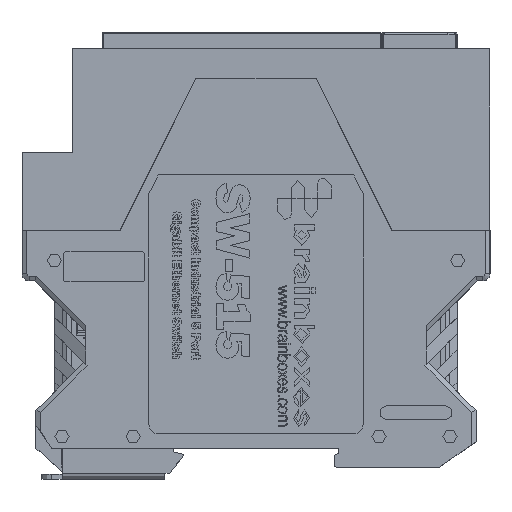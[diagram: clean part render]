
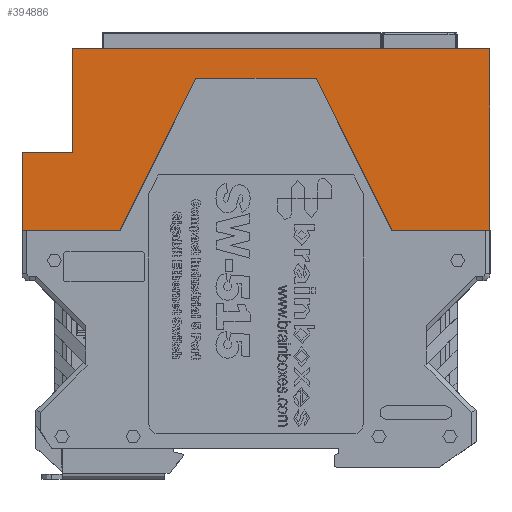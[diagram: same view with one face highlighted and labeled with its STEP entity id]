
A CAD part, top view. The second image highlights one B-rep face of the part: STEP entity #394886.
In plain terms, the highlighted planar face has unit normal (0, 0, 1).
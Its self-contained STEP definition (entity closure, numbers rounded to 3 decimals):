
#390631 = VERTEX_POINT('',#390632);
#390632 = CARTESIAN_POINT('',(45.7,2.4,
    18.7));
#390638 = EDGE_CURVE('',#390639,#390631,#390641,.T.);
#390639 = VERTEX_POINT('',#390640);
#390640 = CARTESIAN_POINT('',(25.,2.4,
    18.7));
#390641 = LINE('',#390642,#390643);
#390642 = CARTESIAN_POINT('',(-3.8,2.4,18.7));
#390643 = VECTOR('',#390644,1.);
#390644 = DIRECTION('',(1.,0.,0.));
#391151 = VERTEX_POINT('',#391152);
#391152 = CARTESIAN_POINT('',(-32.6,2.4,
    18.7));
#391158 = EDGE_CURVE('',#391159,#391151,#391161,.T.);
#391159 = VERTEX_POINT('',#391160);
#391160 = CARTESIAN_POINT('',(-53.3,2.4,
    18.7));
#391161 = LINE('',#391162,#391163);
#391162 = CARTESIAN_POINT('',(-3.8,2.4,18.7));
#391163 = VECTOR('',#391164,1.);
#391164 = DIRECTION('',(1.,0.,0.));
#391452 = VERTEX_POINT('',#391453);
#391453 = CARTESIAN_POINT('',(-53.3,19.,
    18.7));
#391461 = EDGE_CURVE('',#391452,#391462,#391464,.T.);
#391462 = VERTEX_POINT('',#391463);
#391463 = CARTESIAN_POINT('',(-42.6,19.,
    18.7));
#391464 = LINE('',#391465,#391466);
#391465 = CARTESIAN_POINT('',(-3.8,19.,18.7));
#391466 = VECTOR('',#391467,1.);
#391467 = DIRECTION('',(1.,0.,0.));
#391731 = EDGE_CURVE('',#391732,#391462,#391734,.T.);
#391732 = VERTEX_POINT('',#391733);
#391733 = CARTESIAN_POINT('',(-42.6,40.9,
    18.7));
#391734 = LINE('',#391735,#391736);
#391735 = CARTESIAN_POINT('',(-42.6,-74.1,
    18.7));
#391736 = VECTOR('',#391737,1.);
#391737 = DIRECTION('',(0.,-1.,0.));
#393228 = VERTEX_POINT('',#393229);
#393229 = CARTESIAN_POINT('',(45.7,40.9,
    18.7));
#393235 = EDGE_CURVE('',#390631,#393228,#393236,.T.);
#393236 = LINE('',#393237,#393238);
#393237 = CARTESIAN_POINT('',(45.7,-74.1,
    18.7));
#393238 = VECTOR('',#393239,1.);
#393239 = DIRECTION('',(0.,1.,0.));
#393393 = VERTEX_POINT('',#393394);
#393394 = CARTESIAN_POINT('',(-16.553,34.6,
    18.7));
#393411 = VERTEX_POINT('',#393412);
#393412 = CARTESIAN_POINT('',(8.953,34.6,
    18.7));
#393418 = EDGE_CURVE('',#393411,#393393,#393419,.T.);
#393419 = LINE('',#393420,#393421);
#393420 = CARTESIAN_POINT('',(-3.8,34.6,18.7));
#393421 = VECTOR('',#393422,1.);
#393422 = DIRECTION('',(-1.,0.,0.));
#393704 = EDGE_CURVE('',#391452,#391159,#393705,.T.);
#393705 = LINE('',#393706,#393707);
#393706 = CARTESIAN_POINT('',(-53.3,-74.1,
    18.7));
#393707 = VECTOR('',#393708,1.);
#393708 = DIRECTION('',(0.,-1.,0.));
#394117 = EDGE_CURVE('',#390639,#393411,#394118,.T.);
#394118 = LINE('',#394119,#394120);
#394119 = CARTESIAN_POINT('',(63.125,-74.1,
    18.7));
#394120 = VECTOR('',#394121,1.);
#394121 = DIRECTION('',(-0.446,0.895,
    0.));
#394146 = EDGE_CURVE('',#391732,#393228,#394147,.T.);
#394147 = LINE('',#394148,#394149);
#394148 = CARTESIAN_POINT('',(-3.8,40.9,18.7));
#394149 = VECTOR('',#394150,1.);
#394150 = DIRECTION('',(1.,0.,0.));
#394217 = EDGE_CURVE('',#391151,#393393,#394218,.T.);
#394218 = LINE('',#394219,#394220);
#394219 = CARTESIAN_POINT('',(-70.725,-74.1,
    18.7));
#394220 = VECTOR('',#394221,1.);
#394221 = DIRECTION('',(0.446,0.895,
    0.));
#394886 = ADVANCED_FACE('',(#394887),#394899,.T.);
#394887 = FACE_BOUND('',#394888,.T.);
#394888 = EDGE_LOOP('',(#394889,#394890,#394891,#394892,#394893,#394894,
    #394895,#394896,#394897,#394898));
#394889 = ORIENTED_EDGE('',*,*,#393235,.T.);
#394890 = ORIENTED_EDGE('',*,*,#394146,.F.);
#394891 = ORIENTED_EDGE('',*,*,#391731,.T.);
#394892 = ORIENTED_EDGE('',*,*,#391461,.F.);
#394893 = ORIENTED_EDGE('',*,*,#393704,.T.);
#394894 = ORIENTED_EDGE('',*,*,#391158,.T.);
#394895 = ORIENTED_EDGE('',*,*,#394217,.T.);
#394896 = ORIENTED_EDGE('',*,*,#393418,.F.);
#394897 = ORIENTED_EDGE('',*,*,#394117,.F.);
#394898 = ORIENTED_EDGE('',*,*,#390638,.T.);
#394899 = PLANE('',#394900);
#394900 = AXIS2_PLACEMENT_3D('',#394901,#394902,#394903);
#394901 = CARTESIAN_POINT('',(-3.8,2.4,18.7));
#394902 = DIRECTION('',(0.,0.,1.));
#394903 = DIRECTION('',(0.,-1.,0.));
